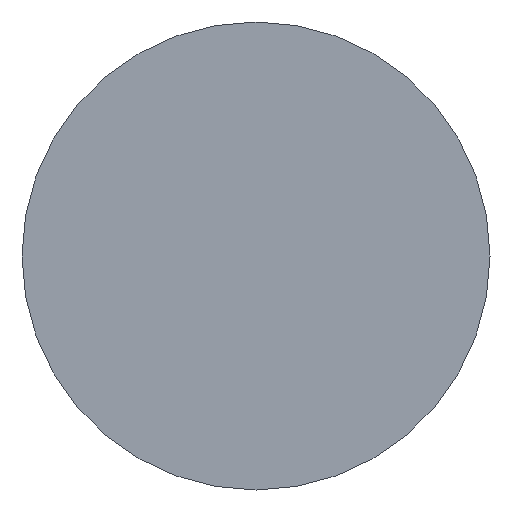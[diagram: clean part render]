
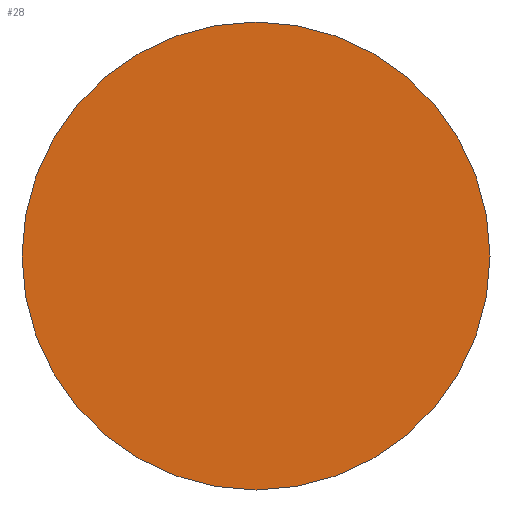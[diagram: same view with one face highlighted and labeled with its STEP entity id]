
A CAD part, left-side view. The second image highlights one B-rep face of the part: STEP entity #28.
In plain terms, the highlighted planar face has unit normal (-1, 0, 0).
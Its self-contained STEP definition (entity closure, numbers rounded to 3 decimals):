
#2 = DIRECTION ( 'NONE',  ( -1., 0., 0. ) ) ;
#19 = VERTEX_POINT ( 'NONE', #223 ) ;
#27 = VERTEX_POINT ( 'NONE', #206 ) ;
#28 = ADVANCED_FACE ( 'NONE', ( #143 ), #210, .F. ) ;
#31 = CARTESIAN_POINT ( 'NONE',  ( 0., 0., 0. ) ) ;
#40 = DIRECTION ( 'NONE',  ( 0., 0., 1. ) ) ;
#82 = EDGE_CURVE ( 'NONE', #27, #19, #259, .T. ) ;
#93 = ORIENTED_EDGE ( 'NONE', *, *, #131, .T. ) ;
#94 = EDGE_LOOP ( 'NONE', ( #125, #93 ) ) ;
#125 = ORIENTED_EDGE ( 'NONE', *, *, #82, .T. ) ;
#127 = AXIS2_PLACEMENT_3D ( 'NONE', #283, #165, #166 ) ;
#131 = EDGE_CURVE ( 'NONE', #19, #27, #132, .T. ) ;
#132 = CIRCLE ( 'NONE', #241, 1. ) ;
#143 = FACE_OUTER_BOUND ( 'NONE', #94, .T. ) ;
#165 = DIRECTION ( 'NONE',  ( -1., 0., 0. ) ) ;
#166 = DIRECTION ( 'NONE',  ( 0., 0., 1. ) ) ;
#176 = DIRECTION ( 'NONE',  ( 1., 0., 0. ) ) ;
#178 = AXIS2_PLACEMENT_3D ( 'NONE', #226, #176, #184 ) ;
#184 = DIRECTION ( 'NONE',  ( 0., 0., -1. ) ) ;
#206 = CARTESIAN_POINT ( 'NONE',  ( 0., 0., 1. ) ) ;
#210 = PLANE ( 'NONE',  #178 ) ;
#223 = CARTESIAN_POINT ( 'NONE',  ( 0., 0., -1. ) ) ;
#226 = CARTESIAN_POINT ( 'NONE',  ( 0., 0., 0. ) ) ;
#241 = AXIS2_PLACEMENT_3D ( 'NONE', #31, #2, #40 ) ;
#259 = CIRCLE ( 'NONE', #127, 1. ) ;
#283 = CARTESIAN_POINT ( 'NONE',  ( 0., 0., 0. ) ) ;
